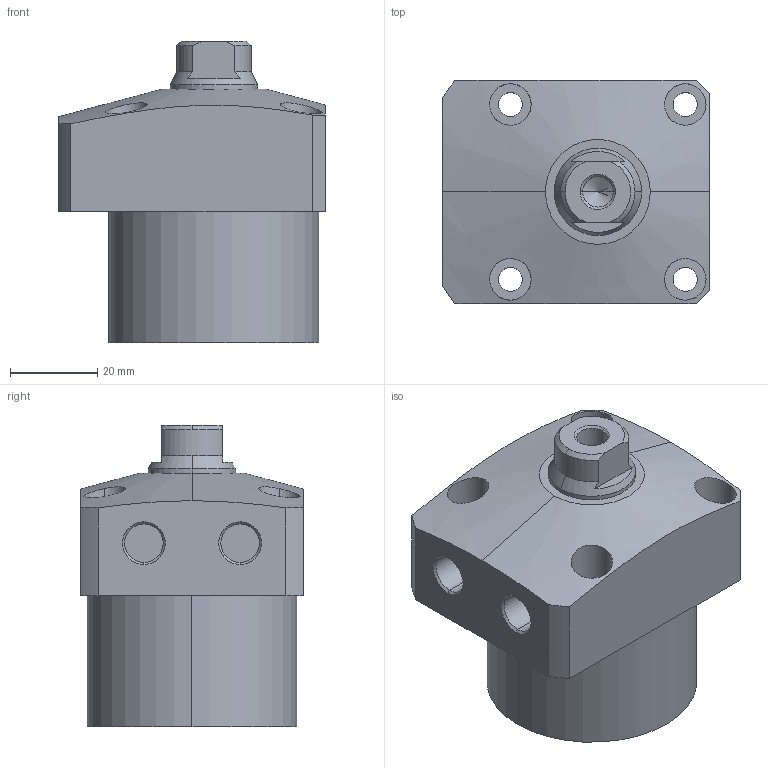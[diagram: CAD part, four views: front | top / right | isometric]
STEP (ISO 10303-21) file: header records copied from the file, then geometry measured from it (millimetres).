
FILE_DESCRIPTION (( 'STEP AP203' ), '1' );
FILE_NAME ('CLL-0480-CA-20.STEP', '2017-05-09T02:13:30', ( '' ), ( '' ), 'SwSTEP 2.0', 'SolidWorks 2015', '' );
FILE_SCHEMA (( 'CONFIG_CONTROL_DESIGN' ));
Length unit declared in the file: millimetre
Products named in the file (1): CLL-0480-CA-20
Bounding box: 61 x 51 x 69 mm (x, y, z)
Volume: 128891.5 mm3; surface area: 19088.7 mm2
Topology: 1 solids, 1 shells, 72 faces, 169 edges, 108 vertices
Faces by surface type: cylinder 35, plane 22, cone 15
Entity records: 2479 total; most frequent: CARTESIAN_POINT 714, DIRECTION 366, ORIENTED_EDGE 334, EDGE_CURVE 167, AXIS2_PLACEMENT_3D 150, VERTEX_POINT 108, EDGE_LOOP 91, CIRCLE 77
